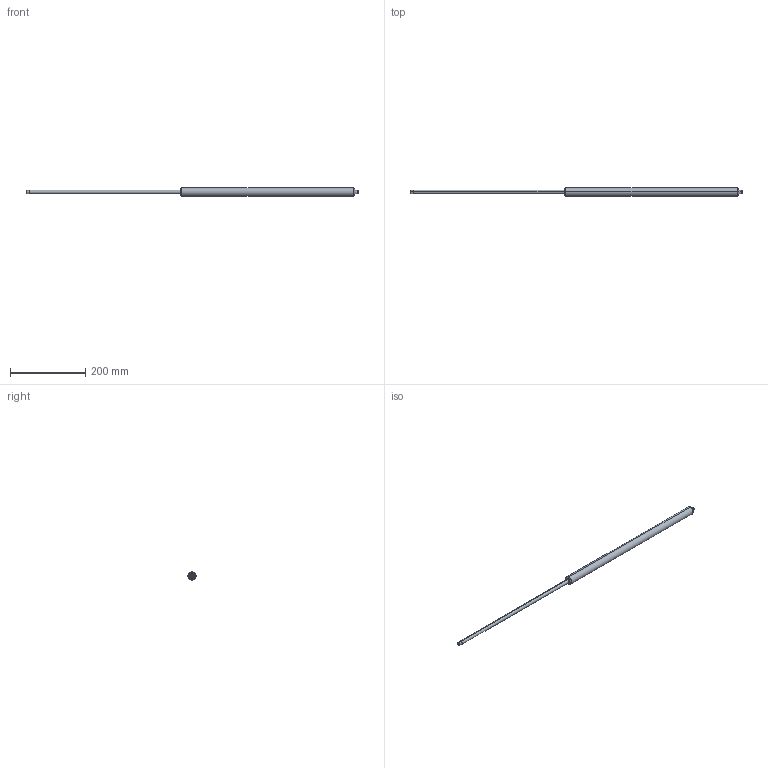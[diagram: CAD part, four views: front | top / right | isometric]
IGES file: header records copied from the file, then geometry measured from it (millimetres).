
Start section: SolidWorks IGES file using analytic representation for surfaces
Bounding box: 881 x 22 x 22 mm (x, y, z)
Surface area: 45559.6 mm2 (no closed solid volume)
Topology: 0 solids, 0 shells, 25 faces, 336 edges, 336 vertices
Faces by surface type: revolution 16, bspline 9
